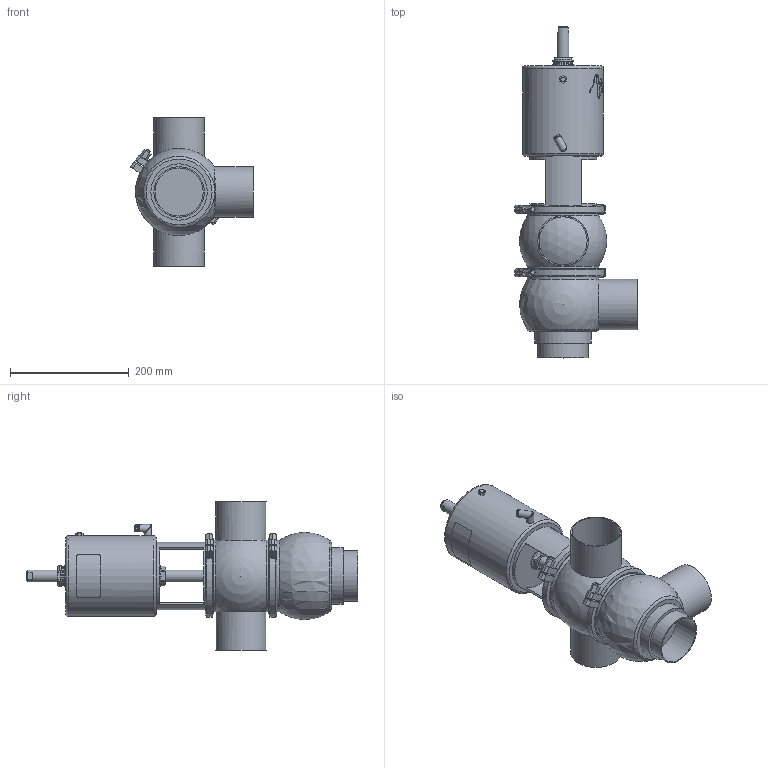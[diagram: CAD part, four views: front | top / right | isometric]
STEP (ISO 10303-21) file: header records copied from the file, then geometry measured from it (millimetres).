
FILE_DESCRIPTION (( 'STEP AP214' ), '1' );
FILE_NAME ('INNOVA K E W DIN 080 T3 AS NC_10.240.16.0022.STEP', '2024-08-06T10:52:14', ( '' ), ( '' ), 'SwSTEP 2.0', 'SolidWorks 2023', '' );
FILE_SCHEMA (( 'AUTOMOTIVE_DESIGN' ));
Length unit declared in the file: millimetre
Products named in the file (6): INNOVA K E W DIN 080 T3 AS NC_10.240.16.0022; 10.240.15.0010_DN 080; 10.240.15.0001_DN 080; 10.240.15.0014_T3 AS P0; 10.240.15.0002_DIN 080; 10.240.15.0007_DIN 080
Assembly tree (6 placements, depth 2):
  INNOVA K E W DIN 080 T3 AS NC_10.240.16.0022
    10.240.15.0007_DIN 080
    10.240.15.0002_DIN 080
    10.240.15.0010_DN 080
    10.240.15.0014_T3 AS P0
    10.240.15.0001_DN 080  x2
Bounding box: 206.43 x 559 x 250 mm (x, y, z)
Volume: 5671240.5 mm3; surface area: 495111.2 mm2
Topology: 6 solids, 6 shells, 402 faces, 1073 edges, 702 vertices
Faces by surface type: plane 194, cylinder 91, bspline 80, cone 26, sphere 6, torus 5
Full cylindrical faces by diameter (mm): 6.15 x1, 8 x5, 8.5 x1, 10.5 x1, 12.5 x3, 16 x1, 20 x2, 31 x1, 34.5 x2, 36.5 x1, 81 x4, 85 x4, 95 x1, 113 x1, 120 x3, 132 x4, 136 x1
Entity records: 20853 total; most frequent: CARTESIAN_POINT 11446, ORIENTED_EDGE 1646, DIRECTION 1273, EDGE_CURVE 823, VERTEX_POINT 568, AXIS2_PLACEMENT_3D 492, EDGE_LOOP 427, FACE_OUTER_BOUND 383
